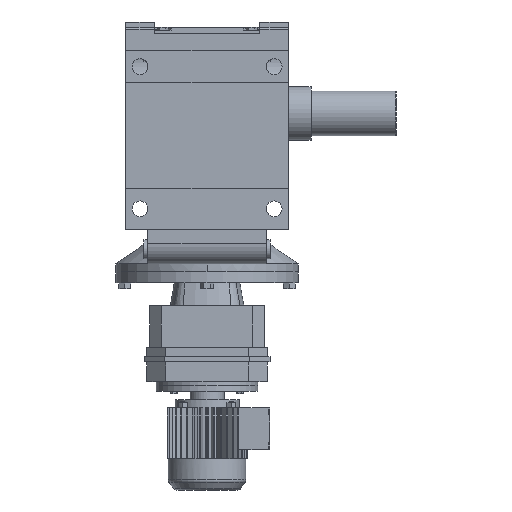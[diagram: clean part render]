
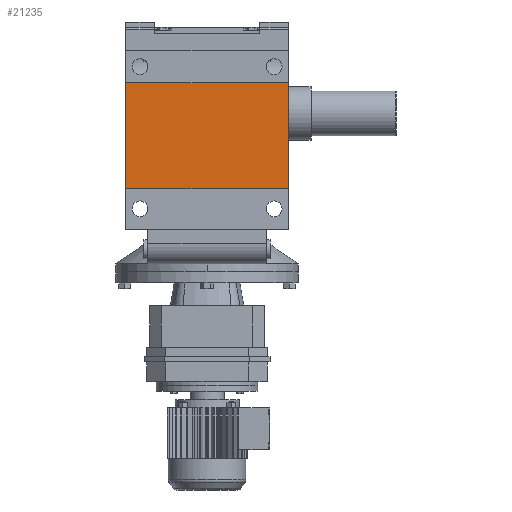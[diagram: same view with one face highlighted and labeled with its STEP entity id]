
A CAD part, front view. The second image highlights one B-rep face of the part: STEP entity #21235.
In plain terms, the highlighted planar face has unit normal (0, -1, 0).
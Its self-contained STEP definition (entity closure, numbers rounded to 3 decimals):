
#7673 = PLANE('',#7674);
#7674 = AXIS2_PLACEMENT_3D('',#7675,#7676,#7677);
#7675 = CARTESIAN_POINT('',(200.,-311.875,175.));
#7676 = DIRECTION('',(1.,0.,0.));
#7677 = DIRECTION('',(0.,0.,-1.));
#8039 = PLANE('',#8040);
#8040 = AXIS2_PLACEMENT_3D('',#8041,#8042,#8043);
#8041 = CARTESIAN_POINT('',(-200.,-311.875,175.));
#8042 = DIRECTION('',(1.,0.,0.));
#8043 = DIRECTION('',(0.,0.,-1.));
#15694 = VERTEX_POINT('',#15695);
#15695 = CARTESIAN_POINT('',(200.,-361.875,75.));
#15709 = PLANE('',#15710);
#15710 = AXIS2_PLACEMENT_3D('',#15711,#15712,#15713);
#15711 = CARTESIAN_POINT('',(200.,-361.875,75.));
#15712 = DIRECTION('',(0.,0.,1.));
#15713 = DIRECTION('',(1.,0.,0.));
#15721 = EDGE_CURVE('',#15694,#15722,#15724,.T.);
#15722 = VERTEX_POINT('',#15723);
#15723 = CARTESIAN_POINT('',(200.,-361.875,-185.));
#15724 = SURFACE_CURVE('',#15725,(#15729,#15736),.PCURVE_S1.);
#15725 = LINE('',#15726,#15727);
#15726 = CARTESIAN_POINT('',(200.,-361.875,75.));
#15727 = VECTOR('',#15728,1.);
#15728 = DIRECTION('',(0.,0.,-1.));
#15729 = PCURVE('',#7673,#15730);
#15730 = DEFINITIONAL_REPRESENTATION('',(#15731),#15735);
#15731 = LINE('',#15732,#15733);
#15732 = CARTESIAN_POINT('',(100.,-50.));
#15733 = VECTOR('',#15734,1.);
#15734 = DIRECTION('',(1.,0.));
#15735 = ( GEOMETRIC_REPRESENTATION_CONTEXT(2) 
PARAMETRIC_REPRESENTATION_CONTEXT() REPRESENTATION_CONTEXT('2D SPACE',''
  ) );
#15736 = PCURVE('',#15737,#15742);
#15737 = PLANE('',#15738);
#15738 = AXIS2_PLACEMENT_3D('',#15739,#15740,#15741);
#15739 = CARTESIAN_POINT('',(145.5,-361.875,180.));
#15740 = DIRECTION('',(0.,1.,0.));
#15741 = DIRECTION('',(0.,0.,1.));
#15742 = DEFINITIONAL_REPRESENTATION('',(#15743),#15747);
#15743 = LINE('',#15744,#15745);
#15744 = CARTESIAN_POINT('',(-105.,54.5));
#15745 = VECTOR('',#15746,1.);
#15746 = DIRECTION('',(-1.,0.));
#15747 = ( GEOMETRIC_REPRESENTATION_CONTEXT(2) 
PARAMETRIC_REPRESENTATION_CONTEXT() REPRESENTATION_CONTEXT('2D SPACE',''
  ) );
#15765 = PLANE('',#15766);
#15766 = AXIS2_PLACEMENT_3D('',#15767,#15768,#15769);
#15767 = CARTESIAN_POINT('',(200.,-361.875,-185.));
#15768 = DIRECTION('',(0.,0.,-1.));
#15769 = DIRECTION('',(-1.,0.,0.));
#16033 = VERTEX_POINT('',#16034);
#16034 = CARTESIAN_POINT('',(-200.,-361.875,-185.));
#16055 = EDGE_CURVE('',#16056,#16033,#16058,.T.);
#16056 = VERTEX_POINT('',#16057);
#16057 = CARTESIAN_POINT('',(-200.,-361.875,75.));
#16058 = SURFACE_CURVE('',#16059,(#16063,#16070),.PCURVE_S1.);
#16059 = LINE('',#16060,#16061);
#16060 = CARTESIAN_POINT('',(-200.,-361.875,75.));
#16061 = VECTOR('',#16062,1.);
#16062 = DIRECTION('',(0.,0.,-1.));
#16063 = PCURVE('',#8039,#16064);
#16064 = DEFINITIONAL_REPRESENTATION('',(#16065),#16069);
#16065 = LINE('',#16066,#16067);
#16066 = CARTESIAN_POINT('',(100.,-50.));
#16067 = VECTOR('',#16068,1.);
#16068 = DIRECTION('',(1.,0.));
#16069 = ( GEOMETRIC_REPRESENTATION_CONTEXT(2) 
PARAMETRIC_REPRESENTATION_CONTEXT() REPRESENTATION_CONTEXT('2D SPACE',''
  ) );
#16070 = PCURVE('',#15737,#16071);
#16071 = DEFINITIONAL_REPRESENTATION('',(#16072),#16076);
#16072 = LINE('',#16073,#16074);
#16073 = CARTESIAN_POINT('',(-105.,-345.5));
#16074 = VECTOR('',#16075,1.);
#16075 = DIRECTION('',(-1.,0.));
#16076 = ( GEOMETRIC_REPRESENTATION_CONTEXT(2) 
PARAMETRIC_REPRESENTATION_CONTEXT() REPRESENTATION_CONTEXT('2D SPACE',''
  ) );
#20944 = EDGE_CURVE('',#15694,#16056,#20945,.T.);
#20945 = SURFACE_CURVE('',#20946,(#20950,#20957),.PCURVE_S1.);
#20946 = LINE('',#20947,#20948);
#20947 = CARTESIAN_POINT('',(200.,-361.875,75.));
#20948 = VECTOR('',#20949,1.);
#20949 = DIRECTION('',(-1.,0.,0.));
#20950 = PCURVE('',#15709,#20951);
#20951 = DEFINITIONAL_REPRESENTATION('',(#20952),#20956);
#20952 = LINE('',#20953,#20954);
#20953 = CARTESIAN_POINT('',(0.,0.));
#20954 = VECTOR('',#20955,1.);
#20955 = DIRECTION('',(-1.,0.));
#20956 = ( GEOMETRIC_REPRESENTATION_CONTEXT(2) 
PARAMETRIC_REPRESENTATION_CONTEXT() REPRESENTATION_CONTEXT('2D SPACE',''
  ) );
#20957 = PCURVE('',#15737,#20958);
#20958 = DEFINITIONAL_REPRESENTATION('',(#20959),#20963);
#20959 = LINE('',#20960,#20961);
#20960 = CARTESIAN_POINT('',(-105.,54.5));
#20961 = VECTOR('',#20962,1.);
#20962 = DIRECTION('',(0.,-1.));
#20963 = ( GEOMETRIC_REPRESENTATION_CONTEXT(2) 
PARAMETRIC_REPRESENTATION_CONTEXT() REPRESENTATION_CONTEXT('2D SPACE',''
  ) );
#21189 = EDGE_CURVE('',#15722,#16033,#21190,.T.);
#21190 = SURFACE_CURVE('',#21191,(#21195,#21202),.PCURVE_S1.);
#21191 = LINE('',#21192,#21193);
#21192 = CARTESIAN_POINT('',(200.,-361.875,-185.));
#21193 = VECTOR('',#21194,1.);
#21194 = DIRECTION('',(-1.,0.,0.));
#21195 = PCURVE('',#15765,#21196);
#21196 = DEFINITIONAL_REPRESENTATION('',(#21197),#21201);
#21197 = LINE('',#21198,#21199);
#21198 = CARTESIAN_POINT('',(0.,0.));
#21199 = VECTOR('',#21200,1.);
#21200 = DIRECTION('',(1.,0.));
#21201 = ( GEOMETRIC_REPRESENTATION_CONTEXT(2) 
PARAMETRIC_REPRESENTATION_CONTEXT() REPRESENTATION_CONTEXT('2D SPACE',''
  ) );
#21202 = PCURVE('',#15737,#21203);
#21203 = DEFINITIONAL_REPRESENTATION('',(#21204),#21208);
#21204 = LINE('',#21205,#21206);
#21205 = CARTESIAN_POINT('',(-365.,54.5));
#21206 = VECTOR('',#21207,1.);
#21207 = DIRECTION('',(0.,-1.));
#21208 = ( GEOMETRIC_REPRESENTATION_CONTEXT(2) 
PARAMETRIC_REPRESENTATION_CONTEXT() REPRESENTATION_CONTEXT('2D SPACE',''
  ) );
#21235 = ADVANCED_FACE('',(#21236),#15737,.F.);
#21236 = FACE_BOUND('',#21237,.T.);
#21237 = EDGE_LOOP('',(#21238,#21239,#21240,#21241));
#21238 = ORIENTED_EDGE('',*,*,#20944,.T.);
#21239 = ORIENTED_EDGE('',*,*,#16055,.T.);
#21240 = ORIENTED_EDGE('',*,*,#21189,.F.);
#21241 = ORIENTED_EDGE('',*,*,#15721,.F.);
